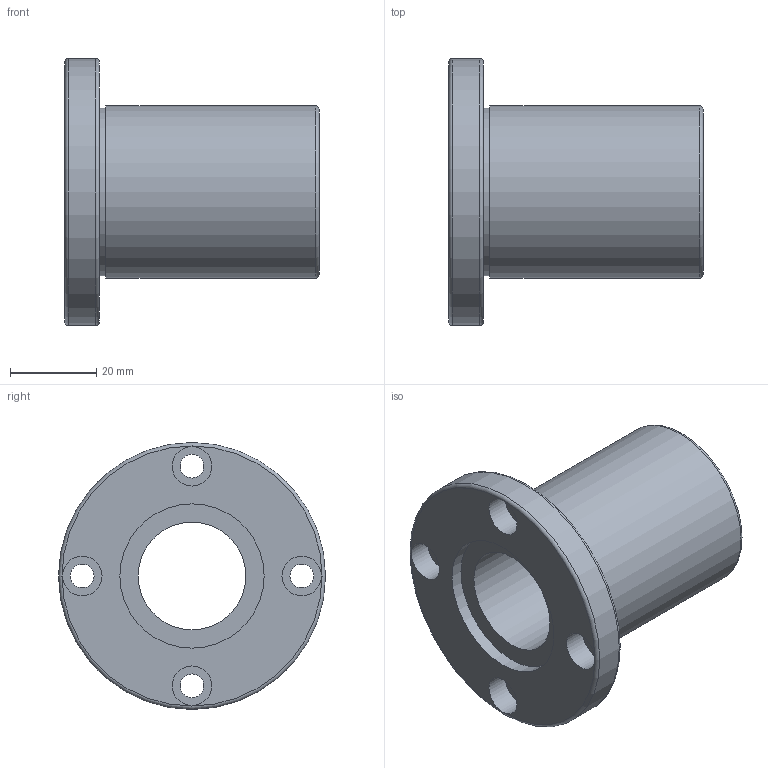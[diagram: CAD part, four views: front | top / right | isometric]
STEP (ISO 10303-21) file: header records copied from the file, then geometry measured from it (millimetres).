
FILE_DESCRIPTION( ( 'Unknown' ), '1' );
FILE_NAME( 'D:/累诀/己绕皋墨飘肺葱胶/11-04-06_档搁累己/01_府聪绢何教/LMF/LMF 25.stp', 'Unknown', ( 'Unknown' ), ( 'Unknown' ), 'PSStep 11.0', 'Unknown', ' ' );
FILE_SCHEMA( ( 'AUTOMOTIVE_DESIGN { 1 0 10303 214 1 1 1 1 }' ) );
Length unit declared in the file: millimetre
Products named in the file (1): 1
Bounding box: 59 x 62 x 62 mm (x, y, z)
Volume: 55129 mm3; surface area: 18370.4 mm2
Topology: 1 solids, 1 shells, 27 faces, 52 edges, 35 vertices
Faces by surface type: cylinder 14, plane 10, torus 3
Full cylindrical faces by diameter (mm): 5.5 x4, 9.2 x4, 25 x1, 33.5 x2, 39 x1, 40 x1, 62 x1
Entity records: 836 total; most frequent: DIRECTION 118, CARTESIAN_POINT 90, EDGE_LOOP 62, ORIENTED_EDGE 62, AXIS2_PLACEMENT_3D 59, FACE_OUTER_BOUND 44, EDGE_CURVE 31, VERTEX_POINT 31
